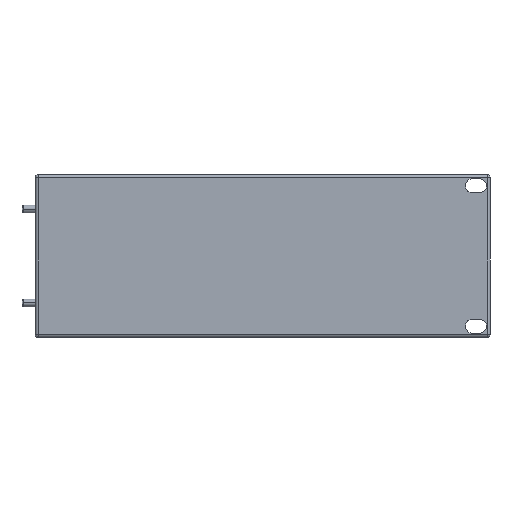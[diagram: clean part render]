
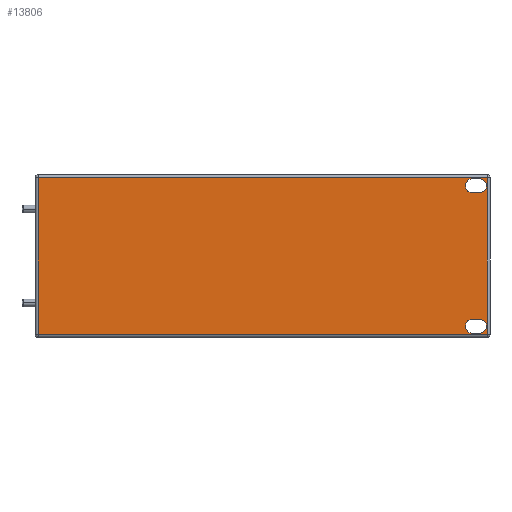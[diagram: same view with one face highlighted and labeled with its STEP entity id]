
A CAD part, top view. The second image highlights one B-rep face of the part: STEP entity #13806.
In plain terms, the highlighted planar face has unit normal (0, 0, 1).
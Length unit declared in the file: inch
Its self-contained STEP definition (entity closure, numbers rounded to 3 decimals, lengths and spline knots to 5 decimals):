
#216 = CIRCLE ( 'NONE', #7658, 0.15 ) ;
#281 = CARTESIAN_POINT ( 'NONE',  ( 9.4375, 1.6725, 0. ) ) ;
#374 = CARTESIAN_POINT ( 'NONE',  ( 9.125, -1.5, 0. ) ) ;
#600 = CARTESIAN_POINT ( 'NONE',  ( -0.1375, -1.6725, 0. ) ) ;
#826 = CARTESIAN_POINT ( 'NONE',  ( 9.4375, -1.6725, 0. ) ) ;
#870 = AXIS2_PLACEMENT_3D ( 'NONE', #12567, #5452, #13792 ) ;
#951 = CARTESIAN_POINT ( 'NONE',  ( 9.125, -1.65, 0. ) ) ;
#969 = VECTOR ( 'NONE', #8145, 39.37008 ) ;
#1078 = CARTESIAN_POINT ( 'NONE',  ( -0.1375, 1.6725, 0. ) ) ;
#1589 = DIRECTION ( 'NONE',  ( 1., 0., 0. ) ) ;
#1696 = CARTESIAN_POINT ( 'NONE',  ( 9.125, -1.5, 0. ) ) ;
#1708 = CARTESIAN_POINT ( 'NONE',  ( 9.275, 1.35, 0. ) ) ;
#1749 = EDGE_CURVE ( 'NONE', #8185, #4755, #7666, .T. ) ;
#1882 = AXIS2_PLACEMENT_3D ( 'NONE', #374, #8682, #1589 ) ;
#1886 = ORIENTED_EDGE ( 'NONE', *, *, #6841, .F. ) ;
#2098 = VERTEX_POINT ( 'NONE', #9696 ) ;
#2359 = VERTEX_POINT ( 'NONE', #13771 ) ;
#2428 = VECTOR ( 'NONE', #15315, 39.37008 ) ;
#2511 = VECTOR ( 'NONE', #8800, 39.37008 ) ;
#2573 = CARTESIAN_POINT ( 'NONE',  ( 9.125, 1.65, 0. ) ) ;
#2620 = LINE ( 'NONE', #9339, #5797 ) ;
#2802 = CARTESIAN_POINT ( 'NONE',  ( 9.275, 1.65, 0. ) ) ;
#2892 = DIRECTION ( 'NONE',  ( 1., 0., 0. ) ) ;
#3188 = ORIENTED_EDGE ( 'NONE', *, *, #12616, .T. ) ;
#3531 = DIRECTION ( 'NONE',  ( 0., 0., 1. ) ) ;
#3536 = EDGE_LOOP ( 'NONE', ( #11756, #9069, #12362, #9621, #10565 ) ) ;
#3550 = PLANE ( 'NONE',  #14065 ) ;
#3602 = DIRECTION ( 'NONE',  ( 0., 0., 1. ) ) ;
#4096 = CARTESIAN_POINT ( 'NONE',  ( 9.275, -1.65, 0. ) ) ;
#4212 = ORIENTED_EDGE ( 'NONE', *, *, #13348, .F. ) ;
#4254 = VECTOR ( 'NONE', #5956, 39.37008 ) ;
#4469 = CIRCLE ( 'NONE', #12886, 0.15 ) ;
#4582 = VERTEX_POINT ( 'NONE', #4096 ) ;
#4601 = VERTEX_POINT ( 'NONE', #10332 ) ;
#4755 = VERTEX_POINT ( 'NONE', #1078 ) ;
#4779 = EDGE_CURVE ( 'NONE', #14103, #8185, #5604, .T. ) ;
#4894 = LINE ( 'NONE', #9148, #14016 ) ;
#5131 = VERTEX_POINT ( 'NONE', #6934 ) ;
#5151 = EDGE_LOOP ( 'NONE', ( #13686, #9368, #3188, #9365 ) ) ;
#5282 = DIRECTION ( 'NONE',  ( 0., 0., 1. ) ) ;
#5452 = DIRECTION ( 'NONE',  ( 0., 0., 1. ) ) ;
#5550 = EDGE_CURVE ( 'NONE', #4582, #2359, #13358, .T. ) ;
#5604 = LINE ( 'NONE', #8196, #2428 ) ;
#5797 = VECTOR ( 'NONE', #14071, 39.37008 ) ;
#5956 = DIRECTION ( 'NONE',  ( -1., 0., 0. ) ) ;
#5979 = EDGE_CURVE ( 'NONE', #7600, #4582, #9583, .T. ) ;
#5990 = VERTEX_POINT ( 'NONE', #2802 ) ;
#6081 = VECTOR ( 'NONE', #11116, 39.37008 ) ;
#6440 = EDGE_CURVE ( 'NONE', #4601, #2098, #11628, .T. ) ;
#6462 = VERTEX_POINT ( 'NONE', #600 ) ;
#6581 = VERTEX_POINT ( 'NONE', #11690 ) ;
#6619 = EDGE_CURVE ( 'NONE', #9021, #8364, #10491, .T. ) ;
#6775 = CARTESIAN_POINT ( 'NONE',  ( 9.275, -1.5, 0. ) ) ;
#6841 = EDGE_CURVE ( 'NONE', #6581, #5131, #4469, .T. ) ;
#6852 = ORIENTED_EDGE ( 'NONE', *, *, #5979, .F. ) ;
#6897 = DIRECTION ( 'NONE',  ( 1., 0., 0. ) ) ;
#6934 = CARTESIAN_POINT ( 'NONE',  ( 8.975, -1.5, 0. ) ) ;
#7218 = ORIENTED_EDGE ( 'NONE', *, *, #12140, .F. ) ;
#7414 = CIRCLE ( 'NONE', #1882, 0.15 ) ;
#7600 = VERTEX_POINT ( 'NONE', #951 ) ;
#7658 = AXIS2_PLACEMENT_3D ( 'NONE', #12396, #5282, #13612 ) ;
#7666 = LINE ( 'NONE', #15261, #969 ) ;
#7959 = DIRECTION ( 'NONE',  ( -1., 0., 0. ) ) ;
#8145 = DIRECTION ( 'NONE',  ( -1., 0., 0. ) ) ;
#8164 = FACE_OUTER_BOUND ( 'NONE', #5151, .T. ) ;
#8185 = VERTEX_POINT ( 'NONE', #281 ) ;
#8196 = CARTESIAN_POINT ( 'NONE',  ( 9.4375, -1.735, 0. ) ) ;
#8364 = VERTEX_POINT ( 'NONE', #11574 ) ;
#8505 = EDGE_CURVE ( 'NONE', #8364, #4601, #12003, .T. ) ;
#8682 = DIRECTION ( 'NONE',  ( 0., 0., 1. ) ) ;
#8800 = DIRECTION ( 'NONE',  ( 1., 0., 0. ) ) ;
#9021 = VERTEX_POINT ( 'NONE', #2573 ) ;
#9069 = ORIENTED_EDGE ( 'NONE', *, *, #6440, .F. ) ;
#9148 = CARTESIAN_POINT ( 'NONE',  ( -0.2, -1.6725, 0. ) ) ;
#9339 = CARTESIAN_POINT ( 'NONE',  ( -0.1375, -1.735, 0. ) ) ;
#9365 = ORIENTED_EDGE ( 'NONE', *, *, #10909, .T. ) ;
#9368 = ORIENTED_EDGE ( 'NONE', *, *, #1749, .T. ) ;
#9433 = FACE_BOUND ( 'NONE', #11455, .T. ) ;
#9583 = LINE ( 'NONE', #13460, #6081 ) ;
#9621 = ORIENTED_EDGE ( 'NONE', *, *, #6619, .F. ) ;
#9696 = CARTESIAN_POINT ( 'NONE',  ( 9.275, 1.35, 0. ) ) ;
#9978 = DIRECTION ( 'NONE',  ( 0., 0., 1. ) ) ;
#10125 = LINE ( 'NONE', #12050, #13314 ) ;
#10332 = CARTESIAN_POINT ( 'NONE',  ( 9.125, 1.35, 0. ) ) ;
#10491 = CIRCLE ( 'NONE', #13082, 0.15 ) ;
#10565 = ORIENTED_EDGE ( 'NONE', *, *, #14764, .F. ) ;
#10639 = CARTESIAN_POINT ( 'NONE',  ( 9.125, 1.5, 0. ) ) ;
#10655 = ORIENTED_EDGE ( 'NONE', *, *, #5550, .F. ) ;
#10724 = CARTESIAN_POINT ( 'NONE',  ( -0.2, -1.735, 0. ) ) ;
#10759 = EDGE_CURVE ( 'NONE', #2098, #5990, #216, .T. ) ;
#10909 = EDGE_CURVE ( 'NONE', #6462, #14103, #4894, .T. ) ;
#11009 = AXIS2_PLACEMENT_3D ( 'NONE', #6775, #15084, #7959 ) ;
#11116 = DIRECTION ( 'NONE',  ( 1., 0., 0. ) ) ;
#11455 = EDGE_LOOP ( 'NONE', ( #10655, #6852, #4212, #1886, #7218 ) ) ;
#11574 = CARTESIAN_POINT ( 'NONE',  ( 8.975, 1.5, 0. ) ) ;
#11628 = LINE ( 'NONE', #1708, #2511 ) ;
#11690 = CARTESIAN_POINT ( 'NONE',  ( 9.125, -1.35, 0. ) ) ;
#11756 = ORIENTED_EDGE ( 'NONE', *, *, #10759, .F. ) ;
#11844 = DIRECTION ( 'NONE',  ( -1., 0., 0. ) ) ;
#11930 = DIRECTION ( 'NONE',  ( -1., 0., 0. ) ) ;
#12003 = CIRCLE ( 'NONE', #870, 0.15 ) ;
#12050 = CARTESIAN_POINT ( 'NONE',  ( 9.275, 1.65, 0. ) ) ;
#12140 = EDGE_CURVE ( 'NONE', #2359, #6581, #13360, .T. ) ;
#12362 = ORIENTED_EDGE ( 'NONE', *, *, #8505, .F. ) ;
#12396 = CARTESIAN_POINT ( 'NONE',  ( 9.275, 1.5, 0. ) ) ;
#12567 = CARTESIAN_POINT ( 'NONE',  ( 9.125, 1.5, 0. ) ) ;
#12616 = EDGE_CURVE ( 'NONE', #4755, #6462, #2620, .T. ) ;
#12621 = FACE_BOUND ( 'NONE', #3536, .T. ) ;
#12886 = AXIS2_PLACEMENT_3D ( 'NONE', #1696, #9978, #2892 ) ;
#13077 = CARTESIAN_POINT ( 'NONE',  ( 9.275, -1.35, 0. ) ) ;
#13082 = AXIS2_PLACEMENT_3D ( 'NONE', #10639, #3531, #11844 ) ;
#13280 = DIRECTION ( 'NONE',  ( -1., 0., 0. ) ) ;
#13314 = VECTOR ( 'NONE', #13280, 39.37008 ) ;
#13348 = EDGE_CURVE ( 'NONE', #5131, #7600, #7414, .T. ) ;
#13358 = CIRCLE ( 'NONE', #11009, 0.15 ) ;
#13360 = LINE ( 'NONE', #13077, #4254 ) ;
#13460 = CARTESIAN_POINT ( 'NONE',  ( 9.275, -1.65, 0. ) ) ;
#13612 = DIRECTION ( 'NONE',  ( 1., 0., 0. ) ) ;
#13686 = ORIENTED_EDGE ( 'NONE', *, *, #4779, .T. ) ;
#13771 = CARTESIAN_POINT ( 'NONE',  ( 9.275, -1.35, 0. ) ) ;
#13792 = DIRECTION ( 'NONE',  ( -1., 0., 0. ) ) ;
#13806 = ADVANCED_FACE ( 'NONE', ( #8164, #12621, #9433 ), #3550, .T. ) ;
#14016 = VECTOR ( 'NONE', #6897, 39.37008 ) ;
#14065 = AXIS2_PLACEMENT_3D ( 'NONE', #10724, #3602, #11930 ) ;
#14071 = DIRECTION ( 'NONE',  ( 0., -1., 0. ) ) ;
#14103 = VERTEX_POINT ( 'NONE', #826 ) ;
#14764 = EDGE_CURVE ( 'NONE', #5990, #9021, #10125, .T. ) ;
#15084 = DIRECTION ( 'NONE',  ( 0., 0., 1. ) ) ;
#15261 = CARTESIAN_POINT ( 'NONE',  ( -0.2, 1.6725, 0. ) ) ;
#15315 = DIRECTION ( 'NONE',  ( 0., 1., 0. ) ) ;
